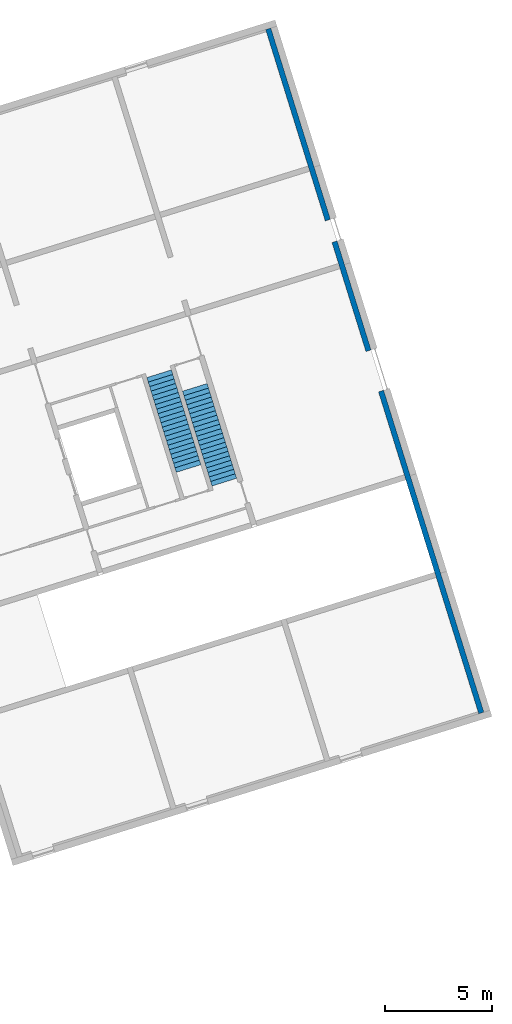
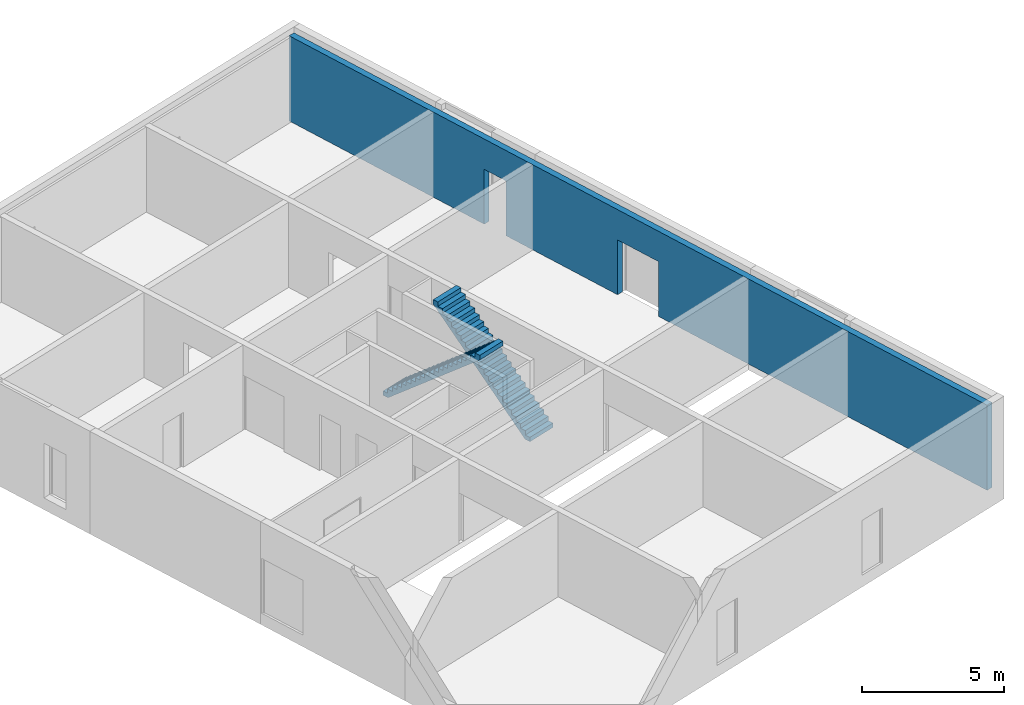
# One storey, part 5 of 6: 2 stair flights, 1 wall, 2 openings, 2 elements without a shape of their own.
"""IFC4 building model written with IfcOpenShell, lengths in metres."""

from ifc_helpers import new_model, entity, si_unit, converted_unit, direction, frame, origin, place, context, subcontext, project, spatial, indexed_curve, outline, extrude, polygons, material, type_object, element, aggregate, save


model = new_model("IFC4")

# Units and contexts
model_context = context("Model", 3, precision=1e-05, world=origin(), true_north=direction((6.12323399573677e-17, 1.0)))
body_context = subcontext(model_context, "Body", "Model", "MODEL_VIEW")
ifc_project = project(units=[si_unit("LENGTHUNIT", "METRE"), si_unit("AREAUNIT", "SQUARE_METRE"), si_unit("VOLUMEUNIT", "CUBIC_METRE"), converted_unit("PLANEANGLEUNIT", "DEGREE", entity("IfcPlaneAngleMeasure", 0.0174532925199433), si_unit("PLANEANGLEUNIT", "RADIAN"), dimensions=[0, 0, 0, 0, 0, 0, 0])], contexts=[model_context])

# Site, building, storey
site_placement = place(None, frame((13.1347999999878, 11.9886000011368, 0.0), z_axis=(0.0, 0.0, 1.0), x_axis=(0.954770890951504, 0.297342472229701, 0.0)))
site = spatial("IfcSite", under=ifc_project, at=site_placement, Name="Schiehaven", CompositionType="ELEMENT")
building_placement = place(site_placement, origin())
building = spatial("IfcBuilding", under=site, at=building_placement, Name="VORM huis", CompositionType="ELEMENT")
storey_placement = place(building_placement, origin())
storey = spatial("IfcBuildingStorey", under=building, at=storey_placement, Name="00 begane grond", CompositionType="ELEMENT", Elevation=0.0)

# Wall, openings
ifc_material_1 = material(Name="beton_gewapend_ihw", Category="Miscellaneous")
wall_type = type_object("IfcWallType", Name="Basic Wall:28_WA_skelet_wand 250mm_gen", PredefinedType="STANDARD")
wall_placement = place(storey_placement, frame((27.5, 0.374999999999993, 0.0), z_axis=(0.0, 0.0, 1.0), x_axis=(0.0, 1.0, 0.0)))
wall = element("IfcWall", 1, at=wall_placement, inside=storey, type_object=wall_type, material=ifc_material_1, Name="Constructieve wand", ObjectType="Wand", PredefinedType="NOTDEFINED", context=body_context, shape_type="Tessellation", body=[
    polygons([(3.38395977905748e-16, -0.125, 0.0), (6.77500000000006, -0.124999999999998, 0.0), (11.53, -0.124999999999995, 0.0), (15.6925, -0.124999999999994, 0.0), (15.6925, -0.124999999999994, 2.34999999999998), (17.6575, -0.124999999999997, 2.34999999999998), (17.6575, -0.124999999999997, 0.0), (21.825, -0.124999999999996, 0.0), (22.9749999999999, -0.124999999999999, 0.0), (22.9749999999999, -0.124999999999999, 2.34999999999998), (24.0249999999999, -0.124999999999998, 2.34999999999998), (24.0249999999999, -0.124999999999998, 0.0), (26.5749999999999, -0.124999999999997, 0.0), (33.35, -0.124999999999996, 0.0), (33.35, -0.124999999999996, 3.65), (26.2999999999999, -0.124999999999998, 3.65), (23.8999999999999, -0.124999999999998, 3.65), (9.4500000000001, -0.124999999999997, 3.65), (7.0500000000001, -0.124999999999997, 3.65), (3.38395977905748e-16, -0.125, 3.65), (15.6925, 0.125000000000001, 2.34999999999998), (15.6925, 0.125000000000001, 0.0), (6.76791955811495e-17, 0.125000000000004, 0.0), (6.76791955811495e-17, 0.125000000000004, 3.65), (33.35, 0.125000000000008, 3.65), (33.35, 0.125000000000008, 0.0), (24.0249999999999, 0.125000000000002, 0.0), (24.0249999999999, 0.125000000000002, 2.34999999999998), (22.9749999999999, 0.124999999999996, 2.34999999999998), (22.9749999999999, 0.124999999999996, 0.0), (17.6575, 0.125000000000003, 0.0), (17.6575, 0.125000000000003, 2.34999999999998)], [[[1, 2, 3, 4, 5, 6, 7, 8, 9, 10, 11, 12, 13, 14, 15, 16, 17, 18, 19, 20]], [[21, 22, 23, 24, 25, 26, 27, 28, 29, 30, 31, 32]], [[14, 13, 12, 27, 26]], [[15, 14, 26, 25]], [[20, 19, 18, 17, 16, 15, 25, 24]], [[1, 20, 24, 23]], [[30, 29, 10, 9]], [[28, 27, 12, 11]], [[29, 28, 11, 10]], [[7, 6, 32, 31]], [[5, 4, 22, 21]], [[6, 5, 21, 32]], [[23, 22, 4, 3, 2, 1]], [[31, 30, 9, 8, 7]]], closed=True),
])
opening_1_placement = place(wall_placement, origin())
element("IfcOpeningElement", 2, at=opening_1_placement, cuts=wall, Name="Vluchtdeur", PredefinedType="OPENING", context=body_context, shape_type="SweptSolid", body=[
    extrude(outline(indexed_curve([(-0.525000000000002, -1.17499999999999), (0.525000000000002, -1.17499999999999), (0.524999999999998, 1.17499999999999), (-0.525000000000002, 1.17499999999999), (-0.525000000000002, -1.17499999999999)], self_intersect=False)), frame((23.4999999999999, -1.64900000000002, 1.17499999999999), z_axis=(0.0, 1.0, 0.0), x_axis=(1.0, 0.0, 0.0)), (0.0, 0.0, 1.0), 3.048),
])
opening_2_placement = place(wall_placement, origin())
element("IfcOpeningElement", 3, at=opening_2_placement, cuts=wall, Name="Vluchtdeur", PredefinedType="OPENING", context=body_context, shape_type="SweptSolid", body=[
    extrude(outline(indexed_curve([(-1.17499999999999, -0.9825), (1.17499999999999, -0.982500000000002), (1.17499999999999, 0.982500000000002), (-1.17499999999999, 0.982500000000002), (-1.17499999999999, -0.9825)], self_intersect=False)), frame((16.675, -1.64900000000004, 1.17499999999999), z_axis=(0.0, 1.0, 0.0), x_axis=(0.0, 0.0, -1.0)), (0.0, 0.0, 1.0), 3.048),
])

# Stair, stair flight
stair_type = type_object("IfcStairType", Name="Trap", PredefinedType="STRAIGHT_RUN_STAIR")
stair_1_placement = place(storey_placement, origin())
stair_1 = element("IfcStair", 4, at=stair_1_placement, inside=storey, type_object=stair_type, Name="Hoofdtrap", ObjectType="Trap", PredefinedType="STRAIGHT_RUN_STAIR")
ifc_material_2 = material(Name="beton_gewapend_prefab-element", Category="Miscellaneous")
stair_flight_type = type_object("IfcStairFlightType", Name="Monolithic Run:NLRS_24_STRR_trap-beton prefab-monolithisch-recht_gen_rsf", PredefinedType="STRAIGHT")
stair_flight_1_placement = place(stair_1_placement, frame((18.6750000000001, 14.19, 0.0)))
stair_flight_1 = element("IfcStairFlight", 5, at=stair_flight_1_placement, type_object=stair_flight_type, material=ifc_material_2, Name="Hoofdtrap Run 1", ObjectType="Monolithic Run:NLRS_24_STRR_trap-beton prefab-monolithisch-recht_gen_rsf", PredefinedType="STRAIGHT", context=body_context, shape_type="Tessellation", body=[
    polygons([(3.5527136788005e-15, 0.219999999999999, 0.185714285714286), (3.5527136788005e-15, 1.77635683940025e-15, 0.185714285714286), (1.2, 1.77635683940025e-15, 0.185714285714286), (1.2, 0.219999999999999, 0.185714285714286), (3.5527136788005e-15, 0.219999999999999, 0.0), (3.5527136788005e-15, 1.77635683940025e-15, 0.0), (1.2, 1.77635683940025e-15, 0.0), (1.2, 0.219999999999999, 0.0), (3.5527136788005e-15, 0.44, 0.371428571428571), (3.5527136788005e-15, 0.219999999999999, 0.371428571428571), (1.2, 0.219999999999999, 0.371428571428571), (1.2, 0.44, 0.371428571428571), (3.5527136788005e-15, 0.44, 0.175129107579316), (3.5527136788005e-15, 0.232539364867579, 0.0), (1.2, 0.232539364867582, 0.0), (1.2, 0.44, 0.175129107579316), (0.0, 0.660000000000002, 0.557142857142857), (3.5527136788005e-15, 0.44, 0.557142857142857), (1.2, 0.44, 0.557142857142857), (1.2, 0.660000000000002, 0.557142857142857), (3.5527136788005e-15, 0.66, 0.360843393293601), (1.2, 0.66, 0.360843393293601), (3.5527136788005e-15, 0.880000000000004, 0.742857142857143), (3.5527136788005e-15, 0.660000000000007, 0.742857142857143), (1.2, 0.660000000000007, 0.742857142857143), (1.2, 0.880000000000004, 0.742857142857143), (3.5527136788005e-15, 0.880000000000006, 0.546557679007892), (1.2, 0.880000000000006, 0.546557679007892), (3.5527136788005e-15, 1.1, 0.928571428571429), (3.5527136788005e-15, 0.880000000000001, 0.928571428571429), (1.2, 0.880000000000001, 0.928571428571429), (1.2, 1.1, 0.928571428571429), (3.5527136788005e-15, 1.1, 0.732271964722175), (1.2, 1.1, 0.732271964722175), (3.5527136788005e-15, 1.32, 1.11428571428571), (3.5527136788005e-15, 1.1, 1.11428571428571), (1.2, 1.1, 1.11428571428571), (1.2, 1.32, 1.11428571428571), (3.5527136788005e-15, 1.32, 0.917986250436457), (1.2, 1.32, 0.917986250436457), (3.5527136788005e-15, 1.54, 1.3), (3.5527136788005e-15, 1.32, 1.3), (1.2, 1.32, 1.3), (1.2, 1.54, 1.3), (3.5527136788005e-15, 1.54, 1.10370053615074), (1.2, 1.54, 1.10370053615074), (3.5527136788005e-15, 1.76, 1.48571428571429), (3.5527136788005e-15, 1.54, 1.48571428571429), (1.2, 1.54, 1.48571428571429), (1.2, 1.76, 1.48571428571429), (3.5527136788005e-15, 1.76, 1.28941482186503), (1.2, 1.76, 1.28941482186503), (3.5527136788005e-15, 1.98, 1.67142857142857), (3.5527136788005e-15, 1.76, 1.67142857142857), (1.2, 1.76, 1.67142857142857), (1.2, 1.98, 1.67142857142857), (3.5527136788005e-15, 1.98, 1.47512910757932), (1.2, 1.98, 1.47512910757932), (0.0, 2.2, 1.85714285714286), (3.5527136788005e-15, 1.98000000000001, 1.85714285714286), (1.2, 1.98000000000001, 1.85714285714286), (1.2, 2.2, 1.85714285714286), (3.5527136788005e-15, 2.20000000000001, 1.66084339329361), (1.2, 2.20000000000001, 1.66084339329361), (3.5527136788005e-15, 2.42, 2.04285714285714), (3.5527136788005e-15, 2.2, 2.04285714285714), (1.2, 2.2, 2.04285714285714), (1.2, 2.42, 2.04285714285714), (3.5527136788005e-15, 2.42, 1.84655767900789), (1.2, 2.42, 1.84655767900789), (3.5527136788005e-15, 2.64, 2.22857142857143), (3.5527136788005e-15, 2.42, 2.22857142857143), (1.2, 2.42, 2.22857142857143), (1.2, 2.64, 2.22857142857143), (3.5527136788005e-15, 2.64, 2.03227196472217), (1.2, 2.64, 2.03227196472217), (3.5527136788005e-15, 2.86, 2.41428571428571), (3.5527136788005e-15, 2.64, 2.41428571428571), (1.2, 2.64, 2.41428571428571), (1.2, 2.86, 2.41428571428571), (3.5527136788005e-15, 2.86, 2.21798625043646), (1.2, 2.86, 2.21798625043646), (3.5527136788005e-15, 3.08, 2.6), (3.5527136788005e-15, 2.86, 2.6), (1.2, 2.86, 2.6), (1.2, 3.08, 2.6), (3.5527136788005e-15, 3.08, 2.40370053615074), (1.2, 3.08, 2.40370053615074), (3.5527136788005e-15, 3.3, 2.78571428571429), (3.5527136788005e-15, 3.08, 2.78571428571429), (1.2, 3.08, 2.78571428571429), (1.2, 3.3, 2.78571428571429), (3.5527136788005e-15, 3.3, 2.58941482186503), (1.2, 3.3, 2.58941482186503), (3.5527136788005e-15, 3.52, 2.97142857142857), (3.5527136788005e-15, 3.3, 2.97142857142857), (1.2, 3.3, 2.97142857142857), (1.2, 3.52, 2.97142857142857), (3.5527136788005e-15, 3.52, 2.77512910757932), (1.2, 3.52, 2.77512910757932), (0.0, 3.74, 3.15714285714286), (3.5527136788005e-15, 3.52, 3.15714285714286), (1.2, 3.52, 3.15714285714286), (1.2, 3.74, 3.15714285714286), (3.5527136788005e-15, 3.73999999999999, 2.9608433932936), (1.2, 3.73999999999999, 2.9608433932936), (3.5527136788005e-15, 3.96, 3.34285714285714), (3.5527136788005e-15, 3.74000000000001, 3.34285714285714), (1.2, 3.74000000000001, 3.34285714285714), (1.2, 3.96, 3.34285714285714), (3.5527136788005e-15, 3.96000000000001, 3.14655767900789), (1.2, 3.96000000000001, 3.14655767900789), (3.5527136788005e-15, 4.18, 3.52857142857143), (3.5527136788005e-15, 3.96, 3.52857142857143), (1.2, 3.96, 3.52857142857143), (1.2, 4.18, 3.52857142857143), (3.5527136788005e-15, 4.18, 3.33227196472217), (1.2, 4.18, 3.33227196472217), (3.5527136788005e-15, 4.4, 3.71428571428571), (3.5527136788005e-15, 4.18, 3.71428571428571), (1.2, 4.18, 3.71428571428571), (1.2, 4.4, 3.71428571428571), (3.5527136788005e-15, 4.4, 3.51798625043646), (1.2, 4.4, 3.51798625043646), (3.5527136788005e-15, 4.62, 3.9), (3.5527136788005e-15, 4.4, 3.9), (1.2, 4.4, 3.9), (1.2, 4.62, 3.9), (3.5527136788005e-15, 4.62, 3.70370053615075), (1.2, 4.62, 3.70370053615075)], [[[1, 2, 3, 4]], [[2, 1, 5, 6]], [[3, 2, 6, 7]], [[4, 3, 7, 8]], [[9, 10, 11, 12]], [[5, 1, 10, 9, 13, 14]], [[1, 4, 11, 10]], [[4, 8, 15, 16, 12, 11]], [[17, 18, 19, 20]], [[18, 17, 21, 13, 9]], [[9, 12, 19, 18]], [[20, 19, 12, 16, 22]], [[23, 24, 25, 26]], [[24, 23, 27, 21, 17]], [[17, 20, 25, 24]], [[26, 25, 20, 22, 28]], [[29, 30, 31, 32]], [[30, 29, 33, 27, 23]], [[23, 26, 31, 30]], [[32, 31, 26, 28, 34]], [[35, 36, 37, 38]], [[36, 35, 39, 33, 29]], [[29, 32, 37, 36]], [[38, 37, 32, 34, 40]], [[41, 42, 43, 44]], [[42, 41, 45, 39, 35]], [[35, 38, 43, 42]], [[44, 43, 38, 40, 46]], [[47, 48, 49, 50]], [[48, 47, 51, 45, 41]], [[41, 44, 49, 48]], [[50, 49, 44, 46, 52]], [[53, 54, 55, 56]], [[54, 53, 57, 51, 47]], [[47, 50, 55, 54]], [[56, 55, 50, 52, 58]], [[59, 60, 61, 62]], [[60, 59, 63, 57, 53]], [[53, 56, 61, 60]], [[62, 61, 56, 58, 64]], [[65, 66, 67, 68]], [[66, 65, 69, 63, 59]], [[59, 62, 67, 66]], [[68, 67, 62, 64, 70]], [[71, 72, 73, 74]], [[72, 71, 75, 69, 65]], [[65, 68, 73, 72]], [[74, 73, 68, 70, 76]], [[77, 78, 79, 80]], [[78, 77, 81, 75, 71]], [[71, 74, 79, 78]], [[80, 79, 74, 76, 82]], [[83, 84, 85, 86]], [[84, 83, 87, 81, 77]], [[77, 80, 85, 84]], [[86, 85, 80, 82, 88]], [[89, 90, 91, 92]], [[90, 89, 93, 87, 83]], [[83, 86, 91, 90]], [[92, 91, 86, 88, 94]], [[95, 96, 97, 98]], [[96, 95, 99, 93, 89]], [[89, 92, 97, 96]], [[98, 97, 92, 94, 100]], [[101, 102, 103, 104]], [[102, 101, 105, 99, 95]], [[95, 98, 103, 102]], [[104, 103, 98, 100, 106]], [[107, 108, 109, 110]], [[108, 107, 111, 105, 101]], [[101, 104, 109, 108]], [[110, 109, 104, 106, 112]], [[113, 114, 115, 116]], [[114, 113, 117, 111, 107]], [[107, 110, 115, 114]], [[116, 115, 110, 112, 118]], [[119, 120, 121, 122]], [[120, 119, 123, 117, 113]], [[113, 116, 121, 120]], [[122, 121, 116, 118, 124]], [[125, 126, 127, 128]], [[126, 125, 129, 123, 119]], [[119, 122, 127, 126]], [[128, 127, 122, 124, 130]], [[125, 128, 130, 129]], [[6, 5, 14, 15, 8, 7]], [[15, 14, 13, 21, 27, 33, 39, 45, 51, 57, 63, 69, 75, 81, 87, 93, 99, 105, 111, 117, 123, 129, 130, 124, 118, 112, 106, 100, 94, 88, 82, 76, 70, 64, 58, 52, 46, 40, 34, 28, 22, 16]]], closed=True),
])
aggregate(stair_1, [stair_flight_1])

stair_2_placement = place(storey_placement, origin())
stair_2 = element("IfcStair", 6, at=stair_2_placement, inside=storey, type_object=stair_type, Name="Hoofdtrap", ObjectType="Trap", PredefinedType="STRAIGHT_RUN_STAIR")
stair_flight_2_placement = place(stair_2_placement, frame((17.2750000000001, 15.29, 0.0)))
stair_flight_2 = element("IfcStairFlight", 7, at=stair_flight_2_placement, type_object=stair_flight_type, material=ifc_material_2, Name="Hoofdtrap Run 1", ObjectType="Monolithic Run:NLRS_24_STRR_trap-beton prefab-monolithisch-recht_gen_rsf", PredefinedType="STRAIGHT", context=body_context, shape_type="Tessellation", body=[
    polygons([(1.20000000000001, 4.4, 0.185714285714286), (1.20000000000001, 4.62, 0.185714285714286), (7.105427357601e-15, 4.62, 0.185714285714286), (7.105427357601e-15, 4.4, 0.185714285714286), (1.20000000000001, 4.4, 0.0), (1.20000000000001, 4.62, 0.0), (7.105427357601e-15, 4.62, 0.0), (7.105427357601e-15, 4.4, 0.0), (1.20000000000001, 4.18, 0.371428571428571), (1.20000000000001, 4.4, 0.371428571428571), (7.105427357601e-15, 4.4, 0.371428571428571), (7.105427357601e-15, 4.18, 0.371428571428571), (1.20000000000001, 4.18, 0.175129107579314), (1.20000000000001, 4.38746063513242, 0.0), (7.105427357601e-15, 4.38746063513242, 0.0), (7.105427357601e-15, 4.18, 0.175129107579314), (1.20000000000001, 3.96, 0.557142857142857), (1.20000000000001, 4.18, 0.557142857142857), (7.105427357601e-15, 4.18, 0.557142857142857), (7.105427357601e-15, 3.96, 0.557142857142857), (1.20000000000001, 3.96, 0.360843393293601), (7.105427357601e-15, 3.96, 0.360843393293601), (1.20000000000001, 3.73999999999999, 0.742857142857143), (1.20000000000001, 3.95999999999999, 0.742857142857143), (3.5527136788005e-15, 3.95999999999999, 0.742857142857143), (3.5527136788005e-15, 3.73999999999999, 0.742857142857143), (1.20000000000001, 3.73999999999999, 0.546557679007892), (3.5527136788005e-15, 3.73999999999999, 0.546557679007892), (1.20000000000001, 3.52, 0.928571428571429), (1.20000000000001, 3.73999999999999, 0.928571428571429), (3.5527136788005e-15, 3.73999999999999, 0.928571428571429), (3.5527136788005e-15, 3.52, 0.928571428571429), (1.20000000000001, 3.52, 0.732271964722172), (3.5527136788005e-15, 3.52, 0.732271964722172), (1.20000000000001, 3.3, 1.11428571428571), (1.20000000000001, 3.52, 1.11428571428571), (3.5527136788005e-15, 3.52, 1.11428571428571), (3.5527136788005e-15, 3.3, 1.11428571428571), (1.20000000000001, 3.3, 0.917986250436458), (3.5527136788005e-15, 3.3, 0.917986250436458), (1.20000000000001, 3.08, 1.3), (1.20000000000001, 3.3, 1.3), (3.5527136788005e-15, 3.3, 1.3), (3.5527136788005e-15, 3.08, 1.3), (1.20000000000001, 3.08, 1.10370053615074), (3.5527136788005e-15, 3.08, 1.10370053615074), (1.20000000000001, 2.86, 1.48571428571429), (1.20000000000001, 3.08, 1.48571428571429), (3.5527136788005e-15, 3.08, 1.48571428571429), (3.5527136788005e-15, 2.86, 1.48571428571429), (1.20000000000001, 2.86, 1.28941482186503), (3.5527136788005e-15, 2.86, 1.28941482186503), (1.20000000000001, 2.63999999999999, 1.67142857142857), (1.20000000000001, 2.86, 1.67142857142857), (3.5527136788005e-15, 2.86, 1.67142857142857), (3.5527136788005e-15, 2.63999999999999, 1.67142857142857), (1.20000000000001, 2.64, 1.47512910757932), (3.5527136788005e-15, 2.64, 1.47512910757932), (1.20000000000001, 2.41999999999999, 1.85714285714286), (1.20000000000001, 2.63999999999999, 1.85714285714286), (3.5527136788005e-15, 2.63999999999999, 1.85714285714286), (3.5527136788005e-15, 2.41999999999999, 1.85714285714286), (1.2, 2.41999999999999, 1.66084339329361), (3.5527136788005e-15, 2.41999999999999, 1.66084339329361), (1.2, 2.2, 2.04285714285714), (1.2, 2.42, 2.04285714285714), (0.0, 2.42, 2.04285714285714), (0.0, 2.2, 2.04285714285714), (1.2, 2.2, 1.84655767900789), (0.0, 2.2, 1.84655767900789), (1.2, 1.98, 2.22857142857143), (1.2, 2.2, 2.22857142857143), (0.0, 2.2, 2.22857142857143), (0.0, 1.98, 2.22857142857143), (1.2, 1.98, 2.03227196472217), (0.0, 1.98, 2.03227196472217), (1.2, 1.76, 2.41428571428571), (1.2, 1.98, 2.41428571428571), (0.0, 1.98, 2.41428571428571), (0.0, 1.76, 2.41428571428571), (1.2, 1.76, 2.21798625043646), (0.0, 1.76, 2.21798625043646), (1.2, 1.54, 2.6), (1.2, 1.76, 2.6), (0.0, 1.76, 2.6), (0.0, 1.54, 2.6), (1.2, 1.54, 2.40370053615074), (0.0, 1.54, 2.40370053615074), (1.2, 1.32, 2.78571428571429), (1.2, 1.54, 2.78571428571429), (0.0, 1.54, 2.78571428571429), (0.0, 1.32, 2.78571428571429), (1.2, 1.32, 2.58941482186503), (0.0, 1.32, 2.58941482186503), (1.2, 1.1, 2.97142857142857), (1.2, 1.32, 2.97142857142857), (0.0, 1.32, 2.97142857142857), (0.0, 1.1, 2.97142857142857), (1.2, 1.1, 2.77512910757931), (0.0, 1.1, 2.77512910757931), (1.2, 0.879999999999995, 3.15714285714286), (1.2, 1.1, 3.15714285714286), (0.0, 1.1, 3.15714285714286), (0.0, 0.879999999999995, 3.15714285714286), (1.2, 0.880000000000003, 2.9608433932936), (0.0, 0.880000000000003, 2.9608433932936), (1.2, 0.659999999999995, 3.34285714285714), (1.2, 0.879999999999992, 3.34285714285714), (0.0, 0.879999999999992, 3.34285714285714), (0.0, 0.659999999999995, 3.34285714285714), (1.2, 0.659999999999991, 3.14655767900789), (0.0, 0.659999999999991, 3.14655767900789), (1.2, 0.44, 3.52857142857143), (1.2, 0.659999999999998, 3.52857142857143), (0.0, 0.659999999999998, 3.52857142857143), (0.0, 0.44, 3.52857142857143), (1.2, 0.439999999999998, 3.33227196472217), (0.0, 0.439999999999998, 3.33227196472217), (1.2, 0.219999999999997, 3.71428571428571), (1.2, 0.44, 3.71428571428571), (0.0, 0.44, 3.71428571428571), (0.0, 0.219999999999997, 3.71428571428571), (1.2, 0.219999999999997, 3.51798625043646), (0.0, 0.219999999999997, 3.51798625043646), (1.2, -1.77635683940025e-15, 3.9), (1.2, 0.219999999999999, 3.9), (0.0, 0.219999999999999, 3.9), (0.0, -1.77635683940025e-15, 3.9), (1.2, -1.77635683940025e-15, 3.70370053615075), (0.0, -1.77635683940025e-15, 3.70370053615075)], [[[1, 2, 3, 4]], [[2, 1, 5, 6]], [[3, 2, 6, 7]], [[4, 3, 7, 8]], [[9, 10, 11, 12]], [[5, 1, 10, 9, 13, 14]], [[1, 4, 11, 10]], [[4, 8, 15, 16, 12, 11]], [[17, 18, 19, 20]], [[18, 17, 21, 13, 9]], [[9, 12, 19, 18]], [[20, 19, 12, 16, 22]], [[23, 24, 25, 26]], [[24, 23, 27, 21, 17]], [[17, 20, 25, 24]], [[26, 25, 20, 22, 28]], [[29, 30, 31, 32]], [[30, 29, 33, 27, 23]], [[23, 26, 31, 30]], [[32, 31, 26, 28, 34]], [[35, 36, 37, 38]], [[36, 35, 39, 33, 29]], [[29, 32, 37, 36]], [[38, 37, 32, 34, 40]], [[41, 42, 43, 44]], [[42, 41, 45, 39, 35]], [[35, 38, 43, 42]], [[44, 43, 38, 40, 46]], [[47, 48, 49, 50]], [[48, 47, 51, 45, 41]], [[41, 44, 49, 48]], [[50, 49, 44, 46, 52]], [[53, 54, 55, 56]], [[54, 53, 57, 51, 47]], [[47, 50, 55, 54]], [[56, 55, 50, 52, 58]], [[59, 60, 61, 62]], [[60, 59, 63, 57, 53]], [[53, 56, 61, 60]], [[62, 61, 56, 58, 64]], [[65, 66, 67, 68]], [[66, 65, 69, 63, 59]], [[59, 62, 67, 66]], [[68, 67, 62, 64, 70]], [[71, 72, 73, 74]], [[72, 71, 75, 69, 65]], [[65, 68, 73, 72]], [[74, 73, 68, 70, 76]], [[77, 78, 79, 80]], [[78, 77, 81, 75, 71]], [[71, 74, 79, 78]], [[80, 79, 74, 76, 82]], [[83, 84, 85, 86]], [[84, 83, 87, 81, 77]], [[77, 80, 85, 84]], [[86, 85, 80, 82, 88]], [[89, 90, 91, 92]], [[90, 89, 93, 87, 83]], [[83, 86, 91, 90]], [[92, 91, 86, 88, 94]], [[95, 96, 97, 98]], [[96, 95, 99, 93, 89]], [[89, 92, 97, 96]], [[98, 97, 92, 94, 100]], [[101, 102, 103, 104]], [[102, 101, 105, 99, 95]], [[95, 98, 103, 102]], [[104, 103, 98, 100, 106]], [[107, 108, 109, 110]], [[108, 107, 111, 105, 101]], [[101, 104, 109, 108]], [[110, 109, 104, 106, 112]], [[113, 114, 115, 116]], [[114, 113, 117, 111, 107]], [[107, 110, 115, 114]], [[116, 115, 110, 112, 118]], [[119, 120, 121, 122]], [[120, 119, 123, 117, 113]], [[113, 116, 121, 120]], [[122, 121, 116, 118, 124]], [[125, 126, 127, 128]], [[126, 125, 129, 123, 119]], [[119, 122, 127, 126]], [[128, 127, 122, 124, 130]], [[125, 128, 130, 129]], [[6, 5, 14, 15, 8, 7]], [[15, 14, 13, 21, 27, 33, 39, 45, 51, 57, 63, 69, 75, 81, 87, 93, 99, 105, 111, 117, 123, 129, 130, 124, 118, 112, 106, 100, 94, 88, 82, 76, 70, 64, 58, 52, 46, 40, 34, 28, 22, 16]]], closed=True),
])
aggregate(stair_2, [stair_flight_2])

save(model, "model.ifc")
